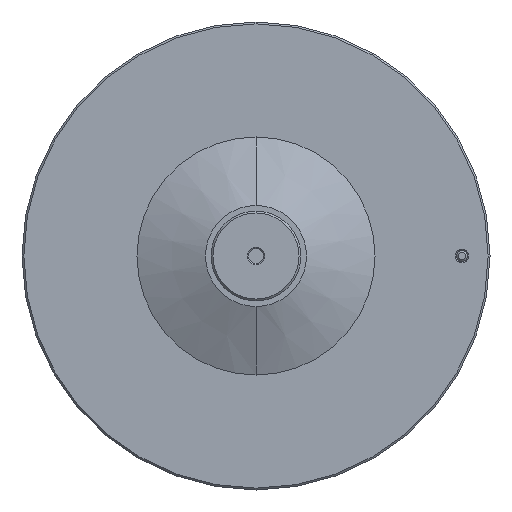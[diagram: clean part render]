
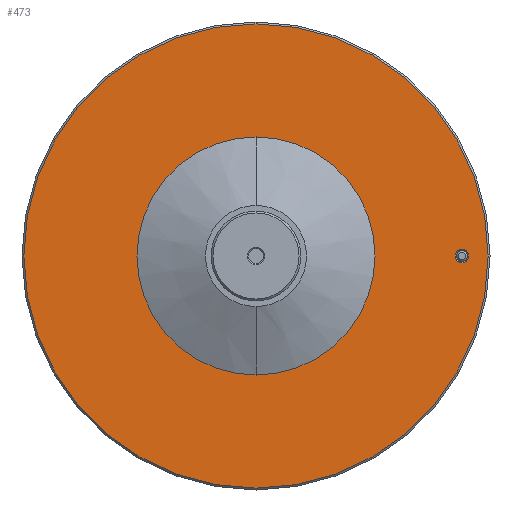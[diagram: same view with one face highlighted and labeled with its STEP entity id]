
A CAD part, front view. The second image highlights one B-rep face of the part: STEP entity #473.
In plain terms, the highlighted planar face has unit normal (0, -1, 0).
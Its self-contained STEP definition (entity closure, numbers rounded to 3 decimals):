
#42 = CIRCLE ( 'NONE', #1829, 63.608 ) ;
#55 = DIRECTION ( 'NONE',  ( 0., 0., -1. ) ) ;
#64 = EDGE_CURVE ( 'NONE', #1248, #521, #1131, .T. ) ;
#71 = CARTESIAN_POINT ( 'NONE',  ( 0., -6., 0. ) ) ;
#83 = DIRECTION ( 'NONE',  ( 0., 1., 0. ) ) ;
#136 = VERTEX_POINT ( 'NONE', #1166 ) ;
#157 = CARTESIAN_POINT ( 'NONE',  ( 0., -6., 63.608 ) ) ;
#187 = FACE_BOUND ( 'NONE', #463, .T. ) ;
#189 = CARTESIAN_POINT ( 'NONE',  ( 0., -6., 0. ) ) ;
#322 = ORIENTED_EDGE ( 'NONE', *, *, #1563, .T. ) ;
#338 = DIRECTION ( 'NONE',  ( 0., -1., 0. ) ) ;
#435 = EDGE_CURVE ( 'NONE', #1816, #1360, #1380, .T. ) ;
#451 = CARTESIAN_POINT ( 'NONE',  ( 110., -6., 0. ) ) ;
#463 = EDGE_LOOP ( 'NONE', ( #322, #1055 ) ) ;
#473 = ADVANCED_FACE ( 'NONE', ( #187, #513, #1120 ), #1313, .T. ) ;
#479 = ORIENTED_EDGE ( 'NONE', *, *, #64, .T. ) ;
#513 = FACE_OUTER_BOUND ( 'NONE', #629, .T. ) ;
#521 = VERTEX_POINT ( 'NONE', #1743 ) ;
#531 = EDGE_CURVE ( 'NONE', #829, #136, #1183, .T. ) ;
#613 = DIRECTION ( 'NONE',  ( 0., 1., 0. ) ) ;
#629 = EDGE_LOOP ( 'NONE', ( #888, #479 ) ) ;
#740 = DIRECTION ( 'NONE',  ( 0., 0., -1. ) ) ;
#797 = DIRECTION ( 'NONE',  ( 0., 0., 1. ) ) ;
#829 = VERTEX_POINT ( 'NONE', #1564 ) ;
#833 = CARTESIAN_POINT ( 'NONE',  ( 0., -6., -124. ) ) ;
#888 = ORIENTED_EDGE ( 'NONE', *, *, #972, .T. ) ;
#922 = DIRECTION ( 'NONE',  ( 0., 0., 1. ) ) ;
#972 = EDGE_CURVE ( 'NONE', #521, #1248, #1565, .T. ) ;
#1005 = AXIS2_PLACEMENT_3D ( 'NONE', #1620, #1329, #922 ) ;
#1011 = DIRECTION ( 'NONE',  ( 0., 1., 0. ) ) ;
#1055 = ORIENTED_EDGE ( 'NONE', *, *, #531, .T. ) ;
#1120 = FACE_BOUND ( 'NONE', #1680, .T. ) ;
#1131 = CIRCLE ( 'NONE', #1323, 124. ) ;
#1136 = AXIS2_PLACEMENT_3D ( 'NONE', #451, #1011, #1169 ) ;
#1154 = DIRECTION ( 'NONE',  ( 0., 0., -1. ) ) ;
#1162 = EDGE_CURVE ( 'NONE', #1360, #1816, #42, .T. ) ;
#1163 = DIRECTION ( 'NONE',  ( 0., -1., 0. ) ) ;
#1166 = CARTESIAN_POINT ( 'NONE',  ( 110., -6., -3.5 ) ) ;
#1169 = DIRECTION ( 'NONE',  ( 0., 0., -1. ) ) ;
#1183 = CIRCLE ( 'NONE', #1136, 3.5 ) ;
#1232 = AXIS2_PLACEMENT_3D ( 'NONE', #1463, #613, #55 ) ;
#1248 = VERTEX_POINT ( 'NONE', #833 ) ;
#1306 = ORIENTED_EDGE ( 'NONE', *, *, #1162, .T. ) ;
#1313 = PLANE ( 'NONE',  #1655 ) ;
#1323 = AXIS2_PLACEMENT_3D ( 'NONE', #189, #1589, #1154 ) ;
#1329 = DIRECTION ( 'NONE',  ( 0., 1., 0. ) ) ;
#1360 = VERTEX_POINT ( 'NONE', #1414 ) ;
#1380 = CIRCLE ( 'NONE', #1005, 63.608 ) ;
#1381 = ORIENTED_EDGE ( 'NONE', *, *, #435, .T. ) ;
#1414 = CARTESIAN_POINT ( 'NONE',  ( 0., -6., -63.608 ) ) ;
#1463 = CARTESIAN_POINT ( 'NONE',  ( 110., -6., 0. ) ) ;
#1511 = CARTESIAN_POINT ( 'NONE',  ( 0., -6., 63.608 ) ) ;
#1563 = EDGE_CURVE ( 'NONE', #136, #829, #1833, .T. ) ;
#1564 = CARTESIAN_POINT ( 'NONE',  ( 110., -6., 3.5 ) ) ;
#1565 = CIRCLE ( 'NONE', #1600, 124. ) ;
#1589 = DIRECTION ( 'NONE',  ( 0., -1., 0. ) ) ;
#1600 = AXIS2_PLACEMENT_3D ( 'NONE', #71, #338, #1626 ) ;
#1620 = CARTESIAN_POINT ( 'NONE',  ( 0., -6., 0. ) ) ;
#1626 = DIRECTION ( 'NONE',  ( 0., 0., -1. ) ) ;
#1655 = AXIS2_PLACEMENT_3D ( 'NONE', #157, #1163, #740 ) ;
#1680 = EDGE_LOOP ( 'NONE', ( #1381, #1306 ) ) ;
#1743 = CARTESIAN_POINT ( 'NONE',  ( 0., -6., 124. ) ) ;
#1792 = CARTESIAN_POINT ( 'NONE',  ( 0., -6., 0. ) ) ;
#1816 = VERTEX_POINT ( 'NONE', #1511 ) ;
#1829 = AXIS2_PLACEMENT_3D ( 'NONE', #1792, #83, #797 ) ;
#1833 = CIRCLE ( 'NONE', #1232, 3.5 ) ;
